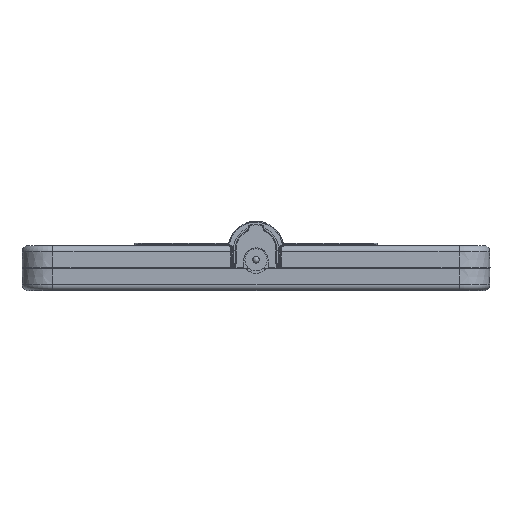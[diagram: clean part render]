
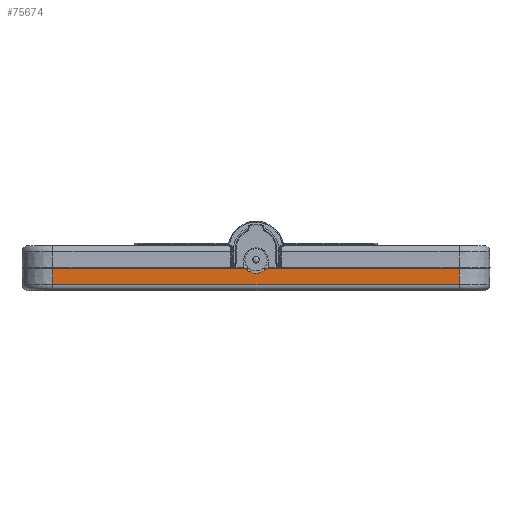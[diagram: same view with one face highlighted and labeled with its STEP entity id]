
A CAD part, front view. The second image highlights one B-rep face of the part: STEP entity #75674.
In plain terms, the highlighted planar face has unit normal (0, -1, -0.009).
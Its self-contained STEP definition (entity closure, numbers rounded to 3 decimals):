
#1283 = VERTEX_POINT ( 'NONE', #50251 ) ;
#1299 = ORIENTED_EDGE ( 'NONE', *, *, #34595, .T. ) ;
#2310 =( BOUNDED_CURVE ( )  B_SPLINE_CURVE ( 3, ( #18139, #40942, #11654, #82015 ),
 .UNSPECIFIED., .F., .F. ) 
 B_SPLINE_CURVE_WITH_KNOTS ( ( 4, 4 ),
 ( 5.538, 6.283 ),
 .UNSPECIFIED. ) 
 CURVE ( )  GEOMETRIC_REPRESENTATION_ITEM ( )  RATIONAL_B_SPLINE_CURVE ( ( 1., 0.954, 0.954, 1. ) ) 
 REPRESENTATION_ITEM ( '' )  );
#2974 = CARTESIAN_POINT ( 'NONE',  ( -2.814, -99., 0. ) ) ;
#5007 = CARTESIAN_POINT ( 'NONE',  ( -46., -98.968, -3.612 ) ) ;
#6395 = CARTESIAN_POINT ( 'NONE',  ( -46., -98.999, -0.061 ) ) ;
#6691 = CARTESIAN_POINT ( 'NONE',  ( 0.755, -98.988, -1.395 ) ) ;
#8525 = EDGE_CURVE ( 'NONE', #72637, #67956, #75945, .T. ) ;
#10831 = LINE ( 'NONE', #11883, #69980 ) ;
#11654 = CARTESIAN_POINT ( 'NONE',  ( -2.458, -99., 0. ) ) ;
#11883 = CARTESIAN_POINT ( 'NONE',  ( -46., -99., 0. ) ) ;
#12591 = VERTEX_POINT ( 'NONE', #71147 ) ;
#16753 = DIRECTION ( 'NONE',  ( 0., 0.009, -1. ) ) ;
#17472 = LINE ( 'NONE', #32573, #77057 ) ;
#18071 = VERTEX_POINT ( 'NONE', #51034 ) ;
#18139 = CARTESIAN_POINT ( 'NONE',  ( -1.865, -98.997, -0.371 ) ) ;
#19993 = DIRECTION ( 'NONE',  ( 0., -0.009, 1. ) ) ;
#22214 = CARTESIAN_POINT ( 'NONE',  ( 2.814, -99., 0. ) ) ;
#25350 = DIRECTION ( 'NONE',  ( 1., 0., 0. ) ) ;
#25567 = VECTOR ( 'NONE', #87237, 1000. ) ;
#26178 = DIRECTION ( 'NONE',  ( 0., -0.009, 1. ) ) ;
#26678 = CARTESIAN_POINT ( 'NONE',  ( 1.865, -98.997, -0.371 ) ) ;
#27589 = EDGE_LOOP ( 'NONE', ( #72424, #76066, #1299, #75890, #30298, #58177, #48983, #45623 ) ) ;
#30298 = ORIENTED_EDGE ( 'NONE', *, *, #70554, .F. ) ;
#32573 = CARTESIAN_POINT ( 'NONE',  ( 46., -99., 0. ) ) ;
#33541 = LINE ( 'NONE', #42385, #63887 ) ;
#33637 = CARTESIAN_POINT ( 'NONE',  ( -0.755, -98.988, -1.395 ) ) ;
#34595 = EDGE_CURVE ( 'NONE', #18071, #1283, #73087, .T. ) ;
#36123 = CARTESIAN_POINT ( 'NONE',  ( 2.458, -99., 0. ) ) ;
#37138 = VERTEX_POINT ( 'NONE', #48647 ) ;
#40942 = CARTESIAN_POINT ( 'NONE',  ( -2.127, -98.999, -0.13 ) ) ;
#41420 = VERTEX_POINT ( 'NONE', #2974 ) ;
#42385 = CARTESIAN_POINT ( 'NONE',  ( 46., -98.968, -3.612 ) ) ;
#45101 = VECTOR ( 'NONE', #19993, 1000. ) ;
#45623 = ORIENTED_EDGE ( 'NONE', *, *, #73774, .T. ) ;
#48647 = CARTESIAN_POINT ( 'NONE',  ( 2.814, -99., 0. ) ) ;
#48983 = ORIENTED_EDGE ( 'NONE', *, *, #72325, .T. ) ;
#50251 = CARTESIAN_POINT ( 'NONE',  ( -1.865, -98.997, -0.371 ) ) ;
#50324 = CARTESIAN_POINT ( 'NONE',  ( -46., -99., 0. ) ) ;
#51034 = CARTESIAN_POINT ( 'NONE',  ( 1.865, -98.997, -0.371 ) ) ;
#51282 = CARTESIAN_POINT ( 'NONE',  ( -46., -99., 0. ) ) ;
#56988 = EDGE_CURVE ( 'NONE', #1283, #41420, #2310, .T. ) ;
#58177 = ORIENTED_EDGE ( 'NONE', *, *, #8525, .F. ) ;
#58427 = EDGE_CURVE ( 'NONE', #37138, #12591, #88348, .T. ) ;
#60767 = EDGE_CURVE ( 'NONE', #37138, #18071, #90415, .T. ) ;
#62384 = FACE_OUTER_BOUND ( 'NONE', #27589, .T. ) ;
#63483 = VERTEX_POINT ( 'NONE', #77875 ) ;
#63887 = VECTOR ( 'NONE', #77037, 1000. ) ;
#66760 = CARTESIAN_POINT ( 'NONE',  ( 2.127, -98.999, -0.13 ) ) ;
#67956 = VERTEX_POINT ( 'NONE', #50324 ) ;
#69980 = VECTOR ( 'NONE', #25350, 1000. ) ;
#70554 = EDGE_CURVE ( 'NONE', #67956, #41420, #10831, .T. ) ;
#71147 = CARTESIAN_POINT ( 'NONE',  ( 46., -99., 0. ) ) ;
#71176 = PLANE ( 'NONE',  #74388 ) ;
#72325 = EDGE_CURVE ( 'NONE', #72637, #63483, #33541, .T. ) ;
#72424 = ORIENTED_EDGE ( 'NONE', *, *, #58427, .F. ) ;
#72554 = CARTESIAN_POINT ( 'NONE',  ( -46., -99., 0. ) ) ;
#72637 = VERTEX_POINT ( 'NONE', #5007 ) ;
#73087 =( BOUNDED_CURVE ( )  B_SPLINE_CURVE ( 3, ( #26678, #6691, #33637, #77139 ),
 .UNSPECIFIED., .F., .F. ) 
 B_SPLINE_CURVE_WITH_KNOTS ( ( 4, 4 ),
 ( 2.396, 3.887 ),
 .UNSPECIFIED. ) 
 CURVE ( )  GEOMETRIC_REPRESENTATION_ITEM ( )  RATIONAL_B_SPLINE_CURVE ( ( 1., 0.823, 0.823, 1. ) ) 
 REPRESENTATION_ITEM ( '' )  );
#73774 = EDGE_CURVE ( 'NONE', #63483, #12591, #17472, .T. ) ;
#73868 = CARTESIAN_POINT ( 'NONE',  ( 1.865, -98.997, -0.371 ) ) ;
#74388 = AXIS2_PLACEMENT_3D ( 'NONE', #51282, #85868, #16753 ) ;
#75674 = ADVANCED_FACE ( 'NONE', ( #62384 ), #71176, .T. ) ;
#75890 = ORIENTED_EDGE ( 'NONE', *, *, #56988, .T. ) ;
#75945 = LINE ( 'NONE', #6395, #45101 ) ;
#76066 = ORIENTED_EDGE ( 'NONE', *, *, #60767, .T. ) ;
#77037 = DIRECTION ( 'NONE',  ( 1., 0., 0. ) ) ;
#77057 = VECTOR ( 'NONE', #26178, 1000. ) ;
#77139 = CARTESIAN_POINT ( 'NONE',  ( -1.865, -98.997, -0.371 ) ) ;
#77875 = CARTESIAN_POINT ( 'NONE',  ( 46., -98.968, -3.612 ) ) ;
#82015 = CARTESIAN_POINT ( 'NONE',  ( -2.814, -99., 0. ) ) ;
#85868 = DIRECTION ( 'NONE',  ( 0., -1., -0.009 ) ) ;
#87237 = DIRECTION ( 'NONE',  ( 1., 0., 0. ) ) ;
#88348 = LINE ( 'NONE', #72554, #25567 ) ;
#90415 =( BOUNDED_CURVE ( )  B_SPLINE_CURVE ( 3, ( #22214, #36123, #66760, #73868 ),
 .UNSPECIFIED., .F., .F. ) 
 B_SPLINE_CURVE_WITH_KNOTS ( ( 4, 4 ),
 ( 0., 0.745 ),
 .UNSPECIFIED. ) 
 CURVE ( )  GEOMETRIC_REPRESENTATION_ITEM ( )  RATIONAL_B_SPLINE_CURVE ( ( 1., 0.954, 0.954, 1. ) ) 
 REPRESENTATION_ITEM ( '' )  );
